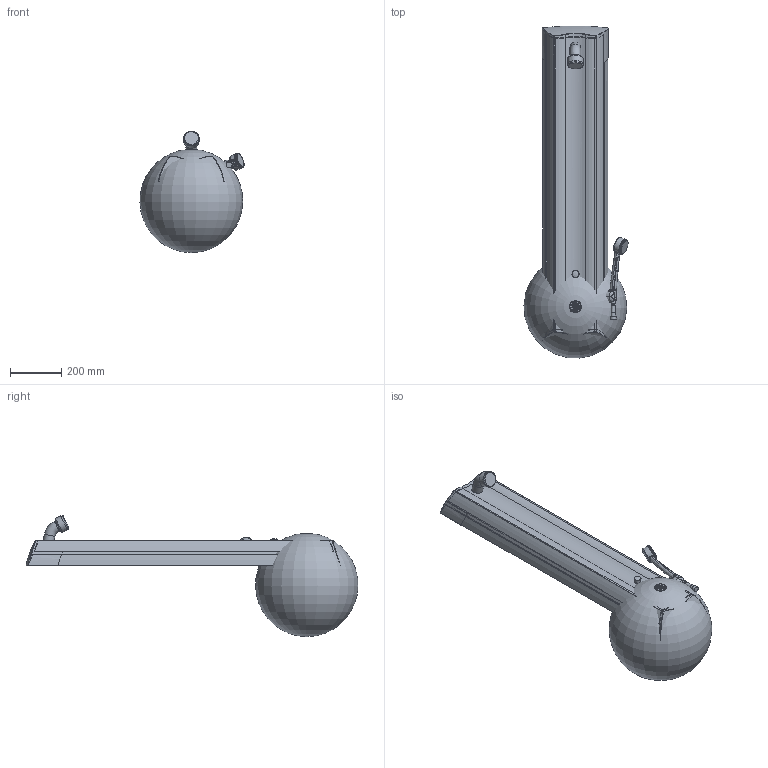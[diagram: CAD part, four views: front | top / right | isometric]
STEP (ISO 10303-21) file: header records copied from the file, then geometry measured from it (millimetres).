
FILE_DESCRIPTION (( 'STEP AP203' ), '1' );
FILE_NAME ('6662F+6662FT.STEP', '2017-03-09T05:58:00', ( '' ), ( '' ), 'SwSTEP 2.0', 'SolidWorks 2016', '' );
FILE_SCHEMA (( 'CONFIG_CONTROL_DESIGN' ));
Length unit declared in the file: millimetre
Products named in the file (1): 6662F+6662FT
Bounding box: 406.97 x 1297.88 x 474.22 mm (x, y, z)
Volume: 10016711.2 mm3; surface area: 1697380.7 mm2
Topology: 4 solids, 6 shells, 400 faces, 1309 edges, 909 vertices
Faces by surface type: bspline 190, cylinder 71, plane 62, torus 45, sphere 27, cone 5
Full cylindrical faces by diameter (mm): 15 x2, 16.1 x1, 19 x2, 22 x1, 22.6 x1, 22.95 x1, 25 x1, 38.351 x1, 42 x2, 60 x1, 60.3 x1
Entity records: 35110 total; most frequent: CARTESIAN_POINT 26576, ORIENTED_EDGE 2330, EDGE_CURVE 1165, DIRECTION 960, VERTEX_POINT 836, B_SPLINE_CURVE_WITH_KNOTS 751, EDGE_LOOP 435, FACE_OUTER_BOUND 416
